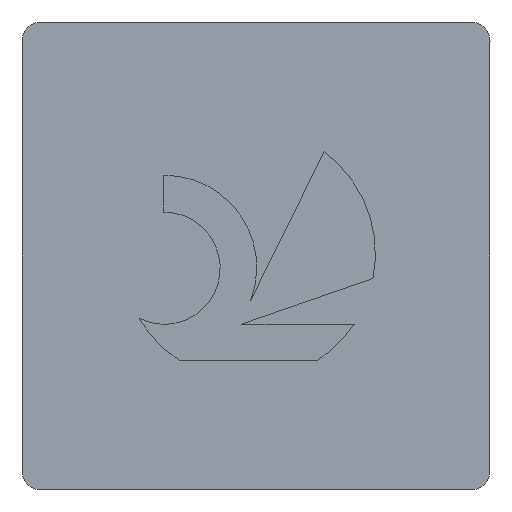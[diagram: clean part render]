
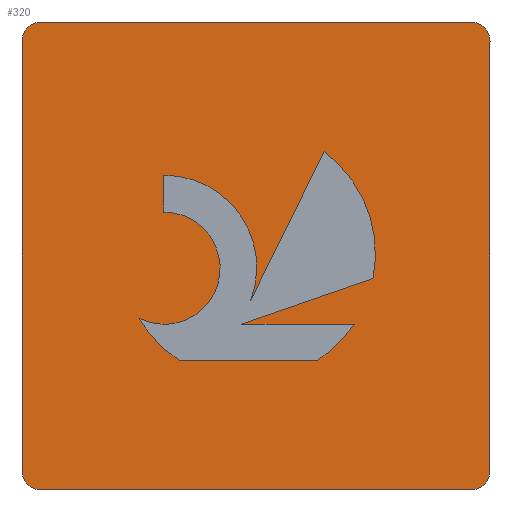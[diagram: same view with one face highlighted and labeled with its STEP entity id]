
A CAD part, top view. The second image highlights one B-rep face of the part: STEP entity #320.
In plain terms, the highlighted planar face has unit normal (0, 0, 1).
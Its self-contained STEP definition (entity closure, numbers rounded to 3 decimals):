
#150=EDGE_CURVE('',#260,#368,#418,.T.);
#156=VERTEX_POINT('',#425);
#164=EDGE_CURVE('',#156,#282,#434,.T.);
#176=VERTEX_POINT('',#447);
#178=VERTEX_POINT('',#449);
#182=EDGE_CURVE('',#216,#284,#453,.T.);
#186=EDGE_CURVE('',#336,#308,#457,.T.);
#200=VERTEX_POINT('',#472);
#206=VERTEX_POINT('',#478);
#216=VERTEX_POINT('',#491);
#218=EDGE_CURVE('',#308,#222,#493,.T.);
#220=EDGE_CURVE('',#348,#206,#495,.T.);
#222=VERTEX_POINT('',#497);
#258=EDGE_CURVE('',#178,#354,#536,.T.);
#260=VERTEX_POINT('',#538);
#264=EDGE_CURVE('',#354,#260,#543,.T.);
#274=EDGE_CURVE('',#200,#176,#555,.T.);
#276=VERTEX_POINT('',#557);
#280=EDGE_CURVE('',#284,#392,#561,.T.);
#282=VERTEX_POINT('',#563);
#284=VERTEX_POINT('',#565);
#286=EDGE_CURVE('',#384,#216,#567,.T.);
#292=EDGE_CURVE('',#282,#178,#574,.T.);
#298=EDGE_CURVE('',#222,#276,#580,.T.);
#304=EDGE_CURVE('',#206,#156,#587,.T.);
#308=VERTEX_POINT('',#591);
#320=ADVANCED_FACE('',(#604,#605),#606,.T.);
#336=VERTEX_POINT('',#624);
#348=VERTEX_POINT('',#636);
#354=VERTEX_POINT('',#643);
#366=EDGE_CURVE('',#176,#336,#657,.T.);
#368=VERTEX_POINT('',#659);
#372=VERTEX_POINT('',#663);
#376=EDGE_CURVE('',#276,#384,#667,.T.);
#378=EDGE_CURVE('',#368,#348,#669,.T.);
#382=EDGE_CURVE('',#392,#372,#674,.T.);
#384=VERTEX_POINT('',#676);
#392=VERTEX_POINT('',#686);
#400=EDGE_CURVE('',#372,#200,#695,.T.);
#418=LINE('',#704,#705);
#425=CARTESIAN_POINT('',(0.,9.128,0.0));
#434=LINE('',#722,#723);
#447=CARTESIAN_POINT('',(3.402,5.535,0.0));
#449=CARTESIAN_POINT('',(0.397,0.0,0.0));
#453=LINE('',#752,#753);
#457=LINE('',#758,#759);
#472=CARTESIAN_POINT('',(2.381,3.493,0.0));
#478=CARTESIAN_POINT('',(0.397,9.525,0.0));
#491=CARTESIAN_POINT('',(4.477,3.376,0.0));
#493=CIRCLE('',#804,1.878);
#495=LINE('',#807,#808);
#497=CARTESIAN_POINT('',(4.652,3.853,0.0));
#536=LINE('',#865,#866);
#538=CARTESIAN_POINT('',(9.525,0.397,0.0));
#543=CIRCLE('',#874,0.397);
#555=CIRCLE('',#891,1.141);
#557=CARTESIAN_POINT('',(6.147,6.885,0.0));
#561=CIRCLE('',#900,2.586);
#563=CARTESIAN_POINT('',(0.0,0.397,0.0));
#565=CARTESIAN_POINT('',(6.761,3.376,0.0));
#567=LINE('',#907,#908);
#574=CIRCLE('',#918,0.397);
#580=LINE('',#927,#928);
#587=CIRCLE('',#938,0.397);
#591=CARTESIAN_POINT('',(2.885,6.406,0.0));
#604=FACE_BOUND('',#963,.T.);
#605=FACE_OUTER_BOUND('',#964,.T.);
#606=PLANE('',#965);
#624=CARTESIAN_POINT('',(2.885,5.655,0.0));
#636=CARTESIAN_POINT('',(9.128,9.525,0.0));
#643=CARTESIAN_POINT('',(9.128,0.0,0.0));
#657=CIRCLE('',#1038,1.141);
#659=CARTESIAN_POINT('',(9.525,9.128,0.0));
#663=CARTESIAN_POINT('',(3.199,2.64,0.0));
#667=CIRCLE('',#1050,2.586);
#669=CIRCLE('',#1053,0.397);
#674=LINE('',#1059,#1060);
#676=CARTESIAN_POINT('',(7.143,4.302,0.0));
#686=CARTESIAN_POINT('',(6.017,2.64,0.0));
#695=CIRCLE('',#1085,2.586);
#704=CARTESIAN_POINT('',(9.525,0.397,0.0));
#705=VECTOR('',#1087,1.0);
#722=CARTESIAN_POINT('',(0.0,9.128,0.0));
#723=VECTOR('',#1104,1.0);
#752=CARTESIAN_POINT('',(5.762,3.376,0.0));
#753=VECTOR('',#1120,1.0);
#758=CARTESIAN_POINT('',(2.885,5.584,0.0));
#759=VECTOR('',#1121,1.0);
#804=AXIS2_PLACEMENT_3D('',#1164,#1165,#1166);
#807=CARTESIAN_POINT('',(9.128,9.525,0.0));
#808=VECTOR('',#1167,1.0);
#865=CARTESIAN_POINT('',(0.397,0.0,0.0));
#866=VECTOR('',#1200,1.0);
#874=AXIS2_PLACEMENT_3D('',#1208,#1209,#1210);
#891=AXIS2_PLACEMENT_3D('',#1229,#1230,#1231);
#900=AXIS2_PLACEMENT_3D('',#1233,#1234,#1235);
#907=CARTESIAN_POINT('',(4.819,3.495,0.0));
#908=VECTOR('',#1236,1.0);
#918=AXIS2_PLACEMENT_3D('',#1246,#1247,#1248);
#927=CARTESIAN_POINT('',(5.591,5.757,0.0));
#928=VECTOR('',#1250,1.0);
#938=AXIS2_PLACEMENT_3D('',#1260,#1261,#1262);
#963=EDGE_LOOP('',(#1281,#1282,#1283,#1284,#1285,#1286,#1287,#1288,#1289,#1290,#1291));
#964=EDGE_LOOP('',(#1292,#1293,#1294,#1295,#1296,#1297,#1298,#1299));
#965=AXIS2_PLACEMENT_3D('',#1300,#1301,#1302);
#1038=AXIS2_PLACEMENT_3D('',#1355,#1356,#1357);
#1050=AXIS2_PLACEMENT_3D('',#1361,#1362,#1363);
#1053=AXIS2_PLACEMENT_3D('',#1364,#1365,#1366);
#1059=CARTESIAN_POINT('',(3.981,2.64,0.0));
#1060=VECTOR('',#1375,1.0);
#1085=AXIS2_PLACEMENT_3D('',#1404,#1405,#1406);
#1087=DIRECTION('',(0.0,1.0,0.0));
#1104=DIRECTION('',(0.0,-1.0,0.0));
#1120=DIRECTION('',(1.0,0.0,0.0));
#1121=DIRECTION('',(0.0,1.0,0.0));
#1164=CARTESIAN_POINT('',(2.899,4.528,0.0));
#1165=DIRECTION('',(0.0,-0.0,-1.0));
#1166=DIRECTION('',(0.933,-0.359,0.0));
#1167=DIRECTION('',(-1.0,0.0,0.0));
#1200=DIRECTION('',(1.0,0.0,0.0));
#1208=CARTESIAN_POINT('',(9.128,0.397,0.0));
#1209=DIRECTION('',(0.0,0.0,1.0));
#1210=DIRECTION('',(0.,-1.0,0.0));
#1229=CARTESIAN_POINT('',(2.892,4.514,0.0));
#1230=DIRECTION('',(0.0,0.0,1.0));
#1231=DIRECTION('',(-0.447,-0.894,0.0));
#1233=CARTESIAN_POINT('',(4.608,4.808,0.0));
#1234=DIRECTION('',(0.0,-0.0,-1.0));
#1235=DIRECTION('',(0.545,-0.838,0.0));
#1236=DIRECTION('',(-0.945,-0.328,0.0));
#1246=CARTESIAN_POINT('',(0.397,0.397,0.0));
#1247=DIRECTION('',(0.0,0.0,1.0));
#1248=DIRECTION('',(-1.0,0.,0.0));
#1250=DIRECTION('',(0.442,0.897,-0.0));
#1260=CARTESIAN_POINT('',(0.397,9.128,0.0));
#1261=DIRECTION('',(0.0,0.0,1.0));
#1262=DIRECTION('',(0.,1.0,0.0));
#1281=ORIENTED_EDGE('',*,*,#186,.T.);
#1282=ORIENTED_EDGE('',*,*,#218,.T.);
#1283=ORIENTED_EDGE('',*,*,#298,.T.);
#1284=ORIENTED_EDGE('',*,*,#376,.T.);
#1285=ORIENTED_EDGE('',*,*,#286,.T.);
#1286=ORIENTED_EDGE('',*,*,#182,.T.);
#1287=ORIENTED_EDGE('',*,*,#280,.T.);
#1288=ORIENTED_EDGE('',*,*,#382,.T.);
#1289=ORIENTED_EDGE('',*,*,#400,.T.);
#1290=ORIENTED_EDGE('',*,*,#274,.T.);
#1291=ORIENTED_EDGE('',*,*,#366,.T.);
#1292=ORIENTED_EDGE('',*,*,#258,.T.);
#1293=ORIENTED_EDGE('',*,*,#264,.T.);
#1294=ORIENTED_EDGE('',*,*,#150,.T.);
#1295=ORIENTED_EDGE('',*,*,#378,.T.);
#1296=ORIENTED_EDGE('',*,*,#220,.T.);
#1297=ORIENTED_EDGE('',*,*,#304,.T.);
#1298=ORIENTED_EDGE('',*,*,#164,.T.);
#1299=ORIENTED_EDGE('',*,*,#292,.T.);
#1300=CARTESIAN_POINT('',(4.763,4.763,0.0));
#1301=DIRECTION('',(0.0,0.0,1.0));
#1302=DIRECTION('',(1.0,0.0,0.0));
#1355=CARTESIAN_POINT('',(2.892,4.514,0.0));
#1356=DIRECTION('',(0.0,0.0,1.0));
#1357=DIRECTION('',(-0.447,-0.894,0.0));
#1361=CARTESIAN_POINT('',(4.608,4.808,0.0));
#1362=DIRECTION('',(0.0,-0.0,-1.0));
#1363=DIRECTION('',(0.981,-0.196,0.0));
#1364=CARTESIAN_POINT('',(9.128,9.128,0.0));
#1365=DIRECTION('',(0.0,-0.0,1.0));
#1366=DIRECTION('',(1.0,0.,0.0));
#1375=DIRECTION('',(-1.0,0.0,0.0));
#1404=CARTESIAN_POINT('',(4.608,4.808,0.0));
#1405=DIRECTION('',(-0.0,0.0,-1.0));
#1406=DIRECTION('',(-0.861,-0.508,0.0));
